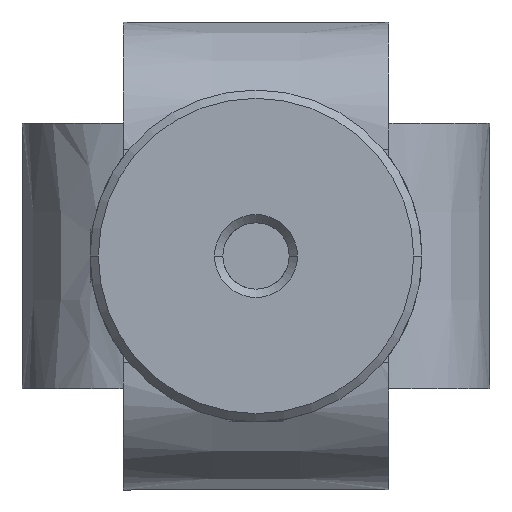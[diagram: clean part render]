
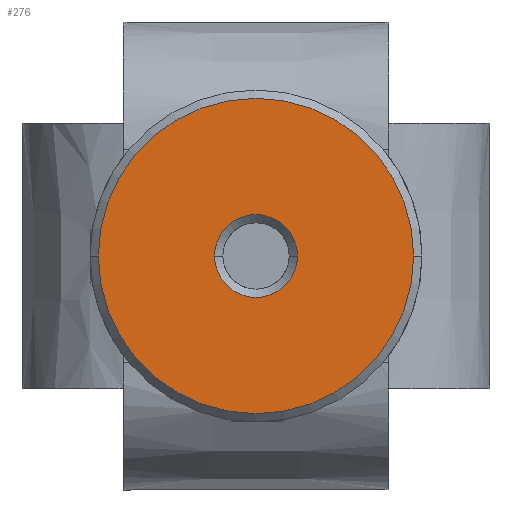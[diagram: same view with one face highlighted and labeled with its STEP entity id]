
A CAD part, front view. The second image highlights one B-rep face of the part: STEP entity #276.
In plain terms, the highlighted planar face has unit normal (0, -1, 0).
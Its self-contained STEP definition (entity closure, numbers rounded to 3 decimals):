
#276 = ADVANCED_FACE ( 'NONE', ( #4831, #3105 ), #2307, .T. ) ;
#506 = DIRECTION ( 'NONE',  ( 0., 1., 0. ) ) ;
#760 = CARTESIAN_POINT ( 'NONE',  ( 0., -35.24, 0. ) ) ;
#833 = CARTESIAN_POINT ( 'NONE',  ( 0., -35.24, 0. ) ) ;
#984 = AXIS2_PLACEMENT_3D ( 'NONE', #2959, #7396, #4170 ) ;
#1103 = EDGE_CURVE ( 'NONE', #2583, #1430, #1990, .T. ) ;
#1430 = VERTEX_POINT ( 'NONE', #7700 ) ;
#1823 = CIRCLE ( 'NONE', #7949, 2.5 ) ;
#1953 = CIRCLE ( 'NONE', #3131, 2.5 ) ;
#1990 = CIRCLE ( 'NONE', #5589, 9.5 ) ;
#2307 = PLANE ( 'NONE',  #984 ) ;
#2450 = CARTESIAN_POINT ( 'NONE',  ( 2.5, -35.24, 0. ) ) ;
#2549 = EDGE_LOOP ( 'NONE', ( #4832, #5127 ) ) ;
#2583 = VERTEX_POINT ( 'NONE', #4251 ) ;
#2590 = DIRECTION ( 'NONE',  ( 0., 1., 0. ) ) ;
#2697 = ORIENTED_EDGE ( 'NONE', *, *, #6069, .T. ) ;
#2959 = CARTESIAN_POINT ( 'NONE',  ( 0., -35.24, 0. ) ) ;
#3105 = FACE_OUTER_BOUND ( 'NONE', #2549, .T. ) ;
#3131 = AXIS2_PLACEMENT_3D ( 'NONE', #760, #2590, #3371 ) ;
#3229 = EDGE_CURVE ( 'NONE', #7973, #3772, #1823, .T. ) ;
#3235 = AXIS2_PLACEMENT_3D ( 'NONE', #833, #6117, #7332 ) ;
#3257 = CARTESIAN_POINT ( 'NONE',  ( 0., -35.24, 0. ) ) ;
#3371 = DIRECTION ( 'NONE',  ( -1., 0., 0. ) ) ;
#3587 = ORIENTED_EDGE ( 'NONE', *, *, #3229, .T. ) ;
#3772 = VERTEX_POINT ( 'NONE', #7119 ) ;
#3948 = DIRECTION ( 'NONE',  ( 0., -1., 0. ) ) ;
#4170 = DIRECTION ( 'NONE',  ( -1., 0., 0. ) ) ;
#4251 = CARTESIAN_POINT ( 'NONE',  ( -9.5, -35.24, 0. ) ) ;
#4266 = EDGE_CURVE ( 'NONE', #1430, #2583, #5942, .T. ) ;
#4831 = FACE_BOUND ( 'NONE', #7241, .T. ) ;
#4832 = ORIENTED_EDGE ( 'NONE', *, *, #4266, .T. ) ;
#5024 = DIRECTION ( 'NONE',  ( -1., 0., 0. ) ) ;
#5127 = ORIENTED_EDGE ( 'NONE', *, *, #1103, .T. ) ;
#5589 = AXIS2_PLACEMENT_3D ( 'NONE', #3257, #3948, #7825 ) ;
#5942 = CIRCLE ( 'NONE', #3235, 9.5 ) ;
#6069 = EDGE_CURVE ( 'NONE', #3772, #7973, #1953, .T. ) ;
#6117 = DIRECTION ( 'NONE',  ( 0., -1., 0. ) ) ;
#7119 = CARTESIAN_POINT ( 'NONE',  ( -2.5, -35.24, 0. ) ) ;
#7241 = EDGE_LOOP ( 'NONE', ( #2697, #3587 ) ) ;
#7332 = DIRECTION ( 'NONE',  ( -1., 0., 0. ) ) ;
#7396 = DIRECTION ( 'NONE',  ( 0., -1., 0. ) ) ;
#7700 = CARTESIAN_POINT ( 'NONE',  ( 9.5, -35.24, 0. ) ) ;
#7825 = DIRECTION ( 'NONE',  ( -1., 0., 0. ) ) ;
#7949 = AXIS2_PLACEMENT_3D ( 'NONE', #8270, #506, #5024 ) ;
#7973 = VERTEX_POINT ( 'NONE', #2450 ) ;
#8270 = CARTESIAN_POINT ( 'NONE',  ( 0., -35.24, 0. ) ) ;
